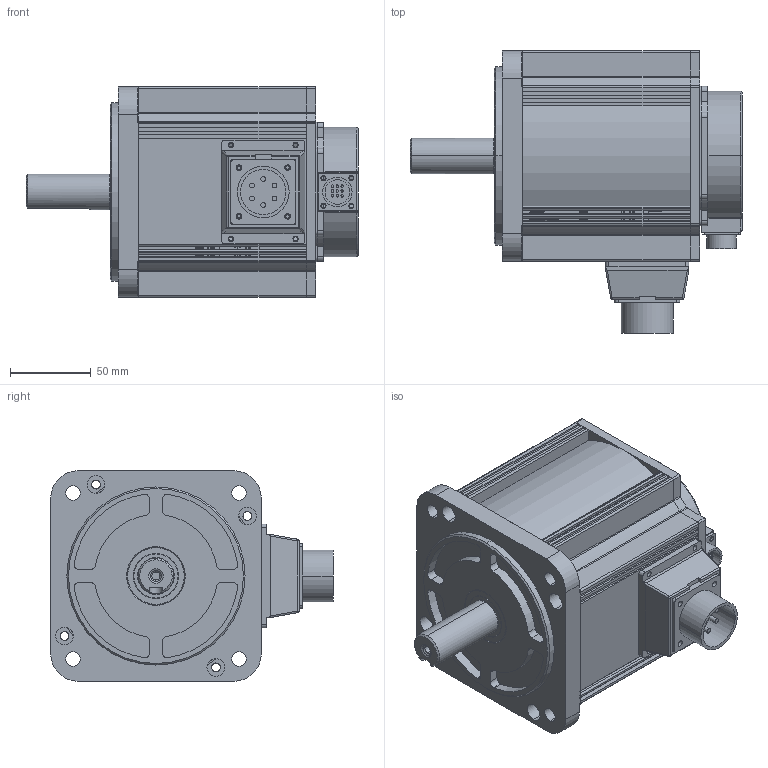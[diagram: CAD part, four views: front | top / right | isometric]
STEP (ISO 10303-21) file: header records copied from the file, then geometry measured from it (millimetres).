
FILE_DESCRIPTION(('FreeCAD Model'),'2;1');
FILE_NAME('Open CASCADE Shape Model','2025-03-17T17:44:03',('Author'),( ''),'Open CASCADE STEP processor 7.6','FreeCAD','Unknown');
FILE_SCHEMA(('AUTOMOTIVE_DESIGN { 1 0 10303 214 1 1 1 1 }'));
Length unit declared in the file: millimetre
Products named in the file (138): PSM6G-130CS20B2-21P5; PSM6G-130CS20B2-21P006; PSM6G-130CS20B2-21P007; PSM6G-130CS20B2-21P008; PSM6G-130CS20B2-21P009; PSM6G-130CS20B2-21P010; PSM6G-130CS20B2-21P011; PSM6G-130CS20B2-21P012; PSM6G-130CS20B2-21P013; PSM6G-130CS20B2-21P014; PSM6G-130CS20B2-21P015; PSM6G-130CS20B2-21P016; PSM6G-130CS20B2-21P017; PSM6G-130CS20B2-21P018; PSM6G-130CS20B2-21P019; PSM6G-130CS20B2-21P020; PSM6G-130CS20B2-21P021; PSM6G-130CS20B2-21P022; PSM6G-130CS20B2-21P023; PSM6G-130CS20B2-21P024; PSM6G-130CS20B2-21P025; PSM6G-130CS20B2-21P026; PSM6G-130CS20B2-21P027; PSM6G-130CS20B2-21P028; PSM6G-130CS20B2-21P029; PSM6G-130CS20B2-21P030; PSM6G-130CS20B2-21P031; PSM6G-130CS20B2-21P032; PSM6G-130CS20B2-21P033; PSM6G-130CS20B2-21P034; PSM6G-130CS20B2-21P035; PSM6G-130CS20B2-21P036; PSM6G-130CS20B2-21P037; PSM6G-130CS20B2-21P038; PSM6G-130CS20B2-21P042; PSM6G-130CS20B2-21P043; PSM6G-130CS20B2-21P044; PSM6G-130CS20B2-21P045; PSM6G-130CS20B2-21P046; PSM6G-130CS20B2-21P047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
Assembly tree (137 placements, depth 2):
  PSM6G-130CS20B2-21P5
    PSM6G-130CS20B2-21P006
    PSM6G-130CS20B2-21P007
    PSM6G-130CS20B2-21P008
    PSM6G-130CS20B2-21P009
    PSM6G-130CS20B2-21P010
    PSM6G-130CS20B2-21P011
    PSM6G-130CS20B2-21P012
    PSM6G-130CS20B2-21P013
    PSM6G-130CS20B2-21P014
    PSM6G-130CS20B2-21P015
    PSM6G-130CS20B2-21P016
    PSM6G-130CS20B2-21P017
    PSM6G-130CS20B2-21P018
    PSM6G-130CS20B2-21P019
    PSM6G-130CS20B2-21P020
    PSM6G-130CS20B2-21P021
    PSM6G-130CS20B2-21P022
    PSM6G-130CS20B2-21P023
    PSM6G-130CS20B2-21P024
    PSM6G-130CS20B2-21P025
    PSM6G-130CS20B2-21P026
    PSM6G-130CS20B2-21P027
    PSM6G-130CS20B2-21P028
    PSM6G-130CS20B2-21P029
    PSM6G-130CS20B2-21P030
    PSM6G-130CS20B2-21P031
    PSM6G-130CS20B2-21P032
    PSM6G-130CS20B2-21P033
    PSM6G-130CS20B2-21P034
    PSM6G-130CS20B2-21P035
    PSM6G-130CS20B2-21P036
    PSM6G-130CS20B2-21P037
    PSM6G-130CS20B2-21P038
    PSM6G-130CS20B2-21P042
    PSM6G-130CS20B2-21P043
    PSM6G-130CS20B2-21P044
    PSM6G-130CS20B2-21P045
    PSM6G-130CS20B2-21P046
    PSM6G-130CS20B2-21P047
    PSM6G-130CS20B2-21P048
    PSM6G-130CS20B2-21P049
    PSM6G-130CS20B2-21P050
    PSM6G-130CS20B2-21P051
    PSM6G-130CS20B2-21P052
    PSM6G-130CS20B2-21P053
    PSM6G-130CS20B2-21P054
    PSM6G-130CS20B2-21P055
    PSM6G-130CS20B2-21P056
    PSM6G-130CS20B2-21P057
    PSM6G-130CS20B2-21P058
    PSM6G-130CS20B2-21P059
    PSM6G-130CS20B2-21P060
    PSM6G-130CS20B2-21P061
    PSM6G-130CS20B2-21P062
    PSM6G-130CS20B2-21P063
    PSM6G-130CS20B2-21P064
    PSM6G-130CS20B2-21P065
    PSM6G-130CS20B2-21P066
    PSM6G-130CS20B2-21P067
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Bounding box: 205 x 174.5 x 130 mm (x, y, z)
Surface area: 176046.1 mm2 (no closed solid volume)
Topology: 0 solids, 137 shells, 1885 faces, 6521 edges, 4746 vertices
Faces by surface type: cylinder 1034, plane 795, torus 21, cone 14, bspline 10, sphere 10, revolution 1
Entity records: 75359 total; most frequent: CARTESIAN_POINT 14319, DIRECTION 13117, ORIENTED_EDGE 10152, EDGE_CURVE 6511, VERTEX_POINT 4746, AXIS2_PLACEMENT_3D 4659, LINE 3798, VECTOR 3798
